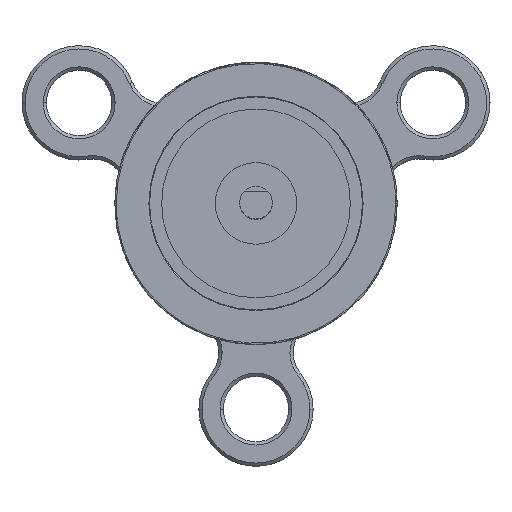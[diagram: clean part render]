
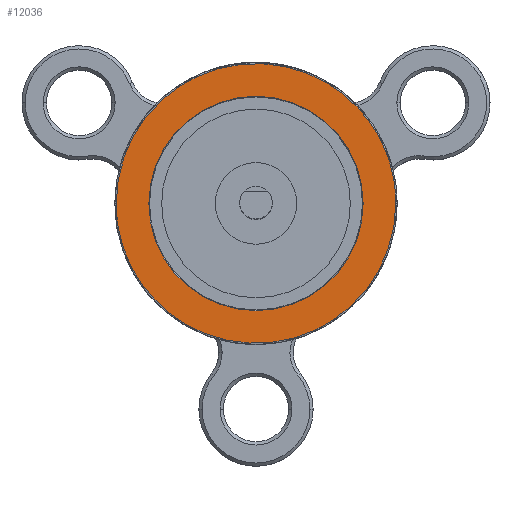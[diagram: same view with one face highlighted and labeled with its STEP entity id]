
A CAD part, top view. The second image highlights one B-rep face of the part: STEP entity #12036.
In plain terms, the highlighted planar face has unit normal (0, 0, 1).
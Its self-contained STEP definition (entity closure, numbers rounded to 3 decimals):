
#3129 = FACE_BOUND ( 'NONE', #38791, .T. ) ;
#3133 = FACE_OUTER_BOUND ( 'NONE', #51457, .T. ) ;
#12036 = ADVANCED_FACE ( 'NONE', ( #3133, #3129 ), #49875, .T. ) ;
#14717 = CARTESIAN_POINT ( 'NONE',  ( -2.718, 5.436, 0. ) ) ;
#14718 = CARTESIAN_POINT ( 'NONE',  ( -2.718, 0., 0. ) ) ;
#14722 = CARTESIAN_POINT ( 'NONE',  ( 2.718, 5.436, 0. ) ) ;
#14723 = CARTESIAN_POINT ( 'NONE',  ( 2.718, 0., 0. ) ) ;
#15028 = CARTESIAN_POINT ( 'NONE',  ( 0., 0., 0. ) ) ;
#15029 = DIRECTION ( 'NONE',  ( 0., 0., -1. ) ) ;
#15030 = DIRECTION ( 'NONE',  ( 1., 0., 0. ) ) ;
#19075 = VERTEX_POINT ( 'NONE', #59350 ) ;
#19078 = VERTEX_POINT ( 'NONE', #59351 ) ;
#32705 = CARTESIAN_POINT ( 'NONE',  ( 0., 0., 0. ) ) ;
#32707 = DIRECTION ( 'NONE',  ( 0., 0., -1. ) ) ;
#32708 = DIRECTION ( 'NONE',  ( 1., 0., 0. ) ) ;
#37838 =( BOUNDED_CURVE ( )  B_SPLINE_CURVE ( 3, ( #54367, #54368, #54372, #54373 ),
 .UNSPECIFIED., .F., .F. ) 
 B_SPLINE_CURVE_WITH_KNOTS ( ( 4, 4 ),
 ( 0., 0.5 ),
 .UNSPECIFIED. ) 
 CURVE ( )  GEOMETRIC_REPRESENTATION_ITEM ( )  RATIONAL_B_SPLINE_CURVE ( ( 1., 0.333, 0.333, 1. ) ) 
 REPRESENTATION_ITEM ( '' )  );
#38791 = EDGE_LOOP ( 'NONE', ( #72100, #72089 ) ) ;
#40484 = VERTEX_POINT ( 'NONE', #60514 ) ;
#40804 = VERTEX_POINT ( 'NONE', #68221 ) ;
#42948 = AXIS2_PLACEMENT_3D ( 'NONE', #49874, #49880, #49881 ) ;
#43202 =( BOUNDED_CURVE ( )  B_SPLINE_CURVE ( 3, ( #14718, #14717, #14722, #14723 ),
 .UNSPECIFIED., .F., .T. ) 
 B_SPLINE_CURVE_WITH_KNOTS ( ( 4, 4 ),
 ( 0.5, 1. ),
 .UNSPECIFIED. ) 
 CURVE ( )  GEOMETRIC_REPRESENTATION_ITEM ( )  RATIONAL_B_SPLINE_CURVE ( ( 1., 0.333, 0.333, 1. ) ) 
 REPRESENTATION_ITEM ( '' )  );
#43701 = AXIS2_PLACEMENT_3D ( 'NONE', #15028, #15029, #15030 ) ;
#43756 = AXIS2_PLACEMENT_3D ( 'NONE', #32705, #32707, #32708 ) ;
#44602 = EDGE_CURVE ( 'NONE', #40804, #40484, #43202, .T. ) ;
#44651 = EDGE_CURVE ( 'NONE', #19075, #19078, #66338, .T. ) ;
#44743 = EDGE_CURVE ( 'NONE', #19078, #19075, #66423, .T. ) ;
#49874 = CARTESIAN_POINT ( 'NONE',  ( 2.07, 0., 0. ) ) ;
#49875 = PLANE ( 'NONE',  #42948 ) ;
#49880 = DIRECTION ( 'NONE',  ( 0., 0., 1. ) ) ;
#49881 = DIRECTION ( 'NONE',  ( 1., 0., 0. ) ) ;
#51457 = EDGE_LOOP ( 'NONE', ( #72101, #72108 ) ) ;
#54367 = CARTESIAN_POINT ( 'NONE',  ( 2.718, 0., 0. ) ) ;
#54368 = CARTESIAN_POINT ( 'NONE',  ( 2.718, -5.436, 0. ) ) ;
#54372 = CARTESIAN_POINT ( 'NONE',  ( -2.718, -5.436, 0. ) ) ;
#54373 = CARTESIAN_POINT ( 'NONE',  ( -2.718, 0., 0. ) ) ;
#59350 = CARTESIAN_POINT ( 'NONE',  ( -2.083, 0., 0. ) ) ;
#59351 = CARTESIAN_POINT ( 'NONE',  ( 2.083, 0., 0. ) ) ;
#60514 = CARTESIAN_POINT ( 'NONE',  ( 2.718, 0., 0. ) ) ;
#62621 = EDGE_CURVE ( 'NONE', #40484, #40804, #37838, .T. ) ;
#66338 = CIRCLE ( 'NONE', #43701, 2.083 ) ;
#66423 = CIRCLE ( 'NONE', #43756, 2.083 ) ;
#68221 = CARTESIAN_POINT ( 'NONE',  ( -2.718, 0., 0. ) ) ;
#72089 = ORIENTED_EDGE ( 'NONE', *, *, #44651, .T. ) ;
#72100 = ORIENTED_EDGE ( 'NONE', *, *, #44743, .T. ) ;
#72101 = ORIENTED_EDGE ( 'NONE', *, *, #62621, .F. ) ;
#72108 = ORIENTED_EDGE ( 'NONE', *, *, #44602, .F. ) ;
